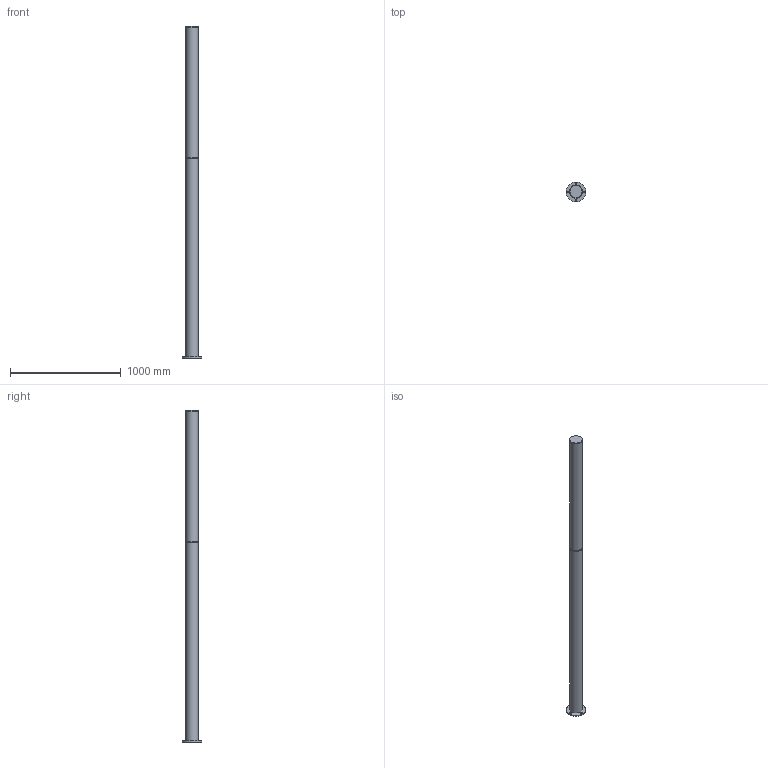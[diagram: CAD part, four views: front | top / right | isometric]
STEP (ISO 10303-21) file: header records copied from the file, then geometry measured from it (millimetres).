
FILE_DESCRIPTION(/* description */ (''),/* implementation_level */ '2;1');
FILE_NAME(/* name */ 'Lester 3000mm.step',/* time_stamp */ '2026-07-28T20:28:32+03:00',/* author */ (''),/* organization */ (''),/* preprocessor_version */ 'ST-DEVELOPER v20.1',/* originating_system */ 'Autodesk Translation Framework v15.8.0.0',/* authorisation */ '');
FILE_SCHEMA (('AUTOMOTIVE_DESIGN { 1 0 10303 214 3 1 1 }'));
Length unit declared in the file: millimetre
Products named in the file (1): Lester 3000mm
Bounding box: 180 x 180 x 3000 mm (x, y, z)
Volume: 29960072.3 mm3; surface area: 1164685.7 mm2
Topology: 4 solids, 4 shells, 45 faces, 101 edges, 66 vertices
Faces by surface type: plane 21, cylinder 13, torus 9, cone 2
Full cylindrical faces by diameter (mm): 16 x4, 110 x1, 113.5 x1, 114 x2, 180 x1
Entity records: 1330 total; most frequent: DIRECTION 246, CARTESIAN_POINT 213, ORIENTED_EDGE 202, EDGE_CURVE 101, AXIS2_PLACEMENT_3D 99, VERTEX_POINT 66, EDGE_LOOP 59, CIRCLE 53
